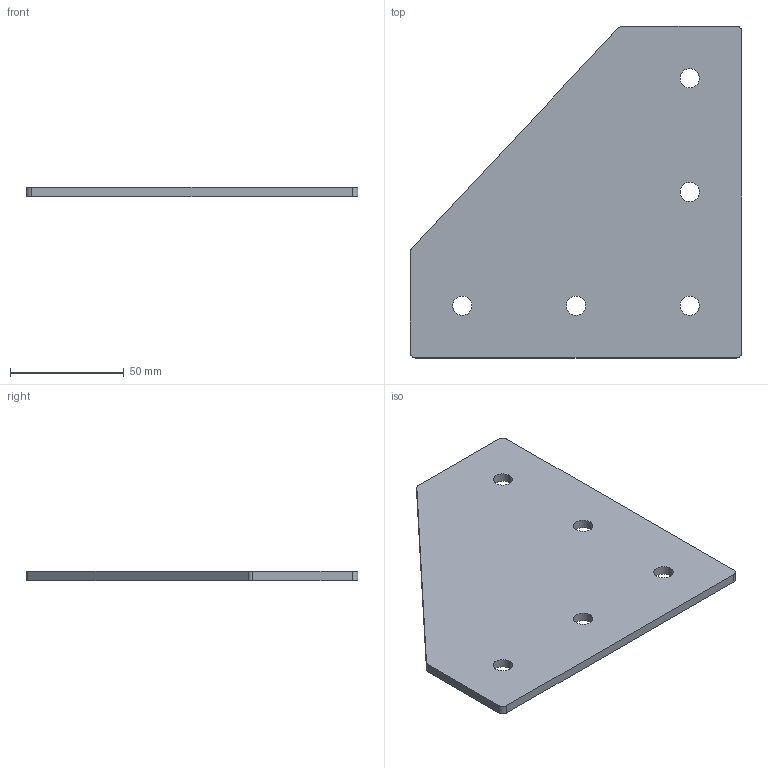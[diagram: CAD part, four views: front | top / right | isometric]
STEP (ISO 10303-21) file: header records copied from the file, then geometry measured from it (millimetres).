
FILE_DESCRIPTION (( 'STEP AP203' ), '1' );
FILE_NAME ('ﾃ-5-ﾓ-50.STEP', '2017-03-22T08:36:39', ( 'RosInstal-MKM' ), ( '' ), 'SwSTEP 2.0', 'SolidWorks 2014', '' );
FILE_SCHEMA (( 'CONFIG_CONTROL_DESIGN' ));
Length unit declared in the file: millimetre
Products named in the file (1): ﾃ-5-ﾓ-50
Bounding box: 146 x 146 x 4 mm (x, y, z)
Volume: 65889.7 mm3; surface area: 35577.7 mm2
Topology: 1 solids, 1 shells, 22 faces, 60 edges, 40 vertices
Faces by surface type: cylinder 15, plane 7
Entity records: 811 total; most frequent: DIRECTION 136, CARTESIAN_POINT 123, ORIENTED_EDGE 120, EDGE_CURVE 60, AXIS2_PLACEMENT_3D 53, VERTEX_POINT 40, EDGE_LOOP 32, VECTOR 30
